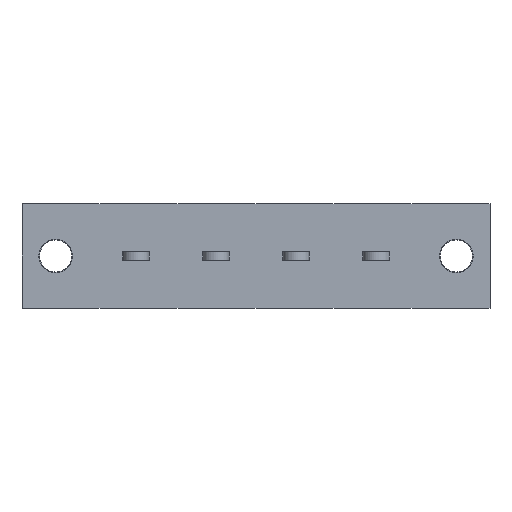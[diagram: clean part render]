
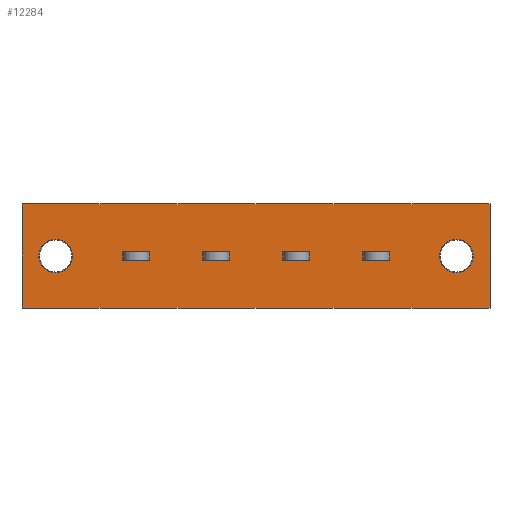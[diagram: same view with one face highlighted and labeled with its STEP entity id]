
A CAD part, front view. The second image highlights one B-rep face of the part: STEP entity #12284.
In plain terms, the highlighted planar face has unit normal (0, -1, 0).
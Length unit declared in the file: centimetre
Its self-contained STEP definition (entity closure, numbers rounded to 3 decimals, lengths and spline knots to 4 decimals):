
#948=VECTOR('',#13832,1.);
#1078=VECTOR('',#14130,1.);
#1082=VECTOR('',#14141,1.);
#1085=VECTOR('',#14157,1.);
#1086=VECTOR('',#14159,1.);
#1102=VECTOR('',#14184,1.);
#1103=VECTOR('',#14185,1.);
#1104=VECTOR('',#14186,1.);
#1105=VECTOR('',#14187,1.);
#1106=VECTOR('',#14188,1.);
#1107=VECTOR('',#14189,1.);
#1108=VECTOR('',#14190,1.);
#1109=VECTOR('',#14191,1.);
#1110=VECTOR('',#14192,1.);
#1111=VECTOR('',#14193,1.);
#1112=VECTOR('',#14194,1.);
#1113=VECTOR('',#14195,1.);
#1114=VECTOR('',#14196,1.);
#1115=VECTOR('',#14197,1.);
#1116=VECTOR('',#14198,1.);
#2374=LINE('',#17290,#948);
#2504=LINE('',#17698,#1078);
#2508=LINE('',#17710,#1082);
#2511=LINE('',#17722,#1085);
#2512=LINE('',#17725,#1086);
#2528=LINE('',#17764,#1102);
#2529=LINE('',#17767,#1103);
#2530=LINE('',#17769,#1104);
#2531=LINE('',#17771,#1105);
#2532=LINE('',#17772,#1106);
#2533=LINE('',#17775,#1107);
#2534=LINE('',#17777,#1108);
#2535=LINE('',#17779,#1109);
#2536=LINE('',#17780,#1110);
#2537=LINE('',#17783,#1111);
#2538=LINE('',#17785,#1112);
#2539=LINE('',#17787,#1113);
#2540=LINE('',#17788,#1114);
#2541=LINE('',#17790,#1115);
#2542=LINE('',#17792,#1116);
#3775=VERTEX_POINT('',#17288);
#3777=VERTEX_POINT('',#17291);
#3783=VERTEX_POINT('',#17305);
#3905=VERTEX_POINT('',#17699);
#3906=VERTEX_POINT('',#17700);
#3909=VERTEX_POINT('',#17711);
#3910=VERTEX_POINT('',#17723);
#3927=VERTEX_POINT('',#17763);
#3928=VERTEX_POINT('',#17765);
#3929=VERTEX_POINT('',#17766);
#3930=VERTEX_POINT('',#17768);
#3931=VERTEX_POINT('',#17770);
#3932=VERTEX_POINT('',#17773);
#3933=VERTEX_POINT('',#17774);
#3934=VERTEX_POINT('',#17776);
#3935=VERTEX_POINT('',#17778);
#3936=VERTEX_POINT('',#17781);
#3937=VERTEX_POINT('',#17782);
#3938=VERTEX_POINT('',#17784);
#3939=VERTEX_POINT('',#17786);
#3940=VERTEX_POINT('',#17789);
#3941=VERTEX_POINT('',#17791);
#4677=CIRCLE('',#20759,0.21);
#4718=CIRCLE('',#20886,0.21);
#5365=EDGE_CURVE('',#3777,#3775,#2374,.T.);
#5372=EDGE_CURVE('',#3783,#3783,#4677,.T.);
#5546=EDGE_CURVE('',#3905,#3906,#2504,.T.);
#5552=EDGE_CURVE('',#3909,#3905,#2508,.T.);
#5559=EDGE_CURVE('',#3910,#3909,#2511,.T.);
#5561=EDGE_CURVE('',#3906,#3910,#2512,.T.);
#5579=EDGE_CURVE('',#3927,#3927,#4718,.T.);
#5580=EDGE_CURVE('',#3928,#3929,#2528,.T.);
#5581=EDGE_CURVE('',#3929,#3930,#2529,.T.);
#5582=EDGE_CURVE('',#3930,#3931,#2530,.T.);
#5583=EDGE_CURVE('',#3931,#3928,#2531,.T.);
#5584=EDGE_CURVE('',#3932,#3933,#2532,.T.);
#5585=EDGE_CURVE('',#3933,#3934,#2533,.T.);
#5586=EDGE_CURVE('',#3934,#3935,#2534,.T.);
#5587=EDGE_CURVE('',#3935,#3932,#2535,.T.);
#5588=EDGE_CURVE('',#3936,#3937,#2536,.T.);
#5589=EDGE_CURVE('',#3937,#3938,#2537,.T.);
#5590=EDGE_CURVE('',#3938,#3939,#2538,.T.);
#5591=EDGE_CURVE('',#3939,#3936,#2539,.T.);
#5592=EDGE_CURVE('',#3940,#3777,#2540,.T.);
#5593=EDGE_CURVE('',#3941,#3775,#2541,.T.);
#5594=EDGE_CURVE('',#3941,#3940,#2542,.T.);
#8142=ORIENTED_EDGE('',*,*,#5372,.T.);
#8143=ORIENTED_EDGE('',*,*,#5579,.T.);
#8144=ORIENTED_EDGE('',*,*,#5552,.F.);
#8145=ORIENTED_EDGE('',*,*,#5559,.F.);
#8146=ORIENTED_EDGE('',*,*,#5561,.F.);
#8147=ORIENTED_EDGE('',*,*,#5546,.F.);
#8148=ORIENTED_EDGE('',*,*,#5580,.T.);
#8149=ORIENTED_EDGE('',*,*,#5581,.T.);
#8150=ORIENTED_EDGE('',*,*,#5582,.T.);
#8151=ORIENTED_EDGE('',*,*,#5583,.T.);
#8152=ORIENTED_EDGE('',*,*,#5584,.T.);
#8153=ORIENTED_EDGE('',*,*,#5585,.T.);
#8154=ORIENTED_EDGE('',*,*,#5586,.T.);
#8155=ORIENTED_EDGE('',*,*,#5587,.T.);
#8156=ORIENTED_EDGE('',*,*,#5588,.T.);
#8157=ORIENTED_EDGE('',*,*,#5589,.T.);
#8158=ORIENTED_EDGE('',*,*,#5590,.T.);
#8159=ORIENTED_EDGE('',*,*,#5591,.T.);
#8160=ORIENTED_EDGE('',*,*,#5592,.T.);
#8161=ORIENTED_EDGE('',*,*,#5365,.T.);
#8162=ORIENTED_EDGE('',*,*,#5593,.F.);
#8163=ORIENTED_EDGE('',*,*,#5594,.T.);
#10751=EDGE_LOOP('',(#8142));
#10752=EDGE_LOOP('',(#8143));
#10753=EDGE_LOOP('',(#8144,#8145,#8146,#8147));
#10754=EDGE_LOOP('',(#8148,#8149,#8150,#8151));
#10755=EDGE_LOOP('',(#8152,#8153,#8154,#8155));
#10756=EDGE_LOOP('',(#8156,#8157,#8158,#8159));
#10757=EDGE_LOOP('',(#8160,#8161,#8162,#8163));
#11535=FACE_BOUND('',#10751,.T.);
#11536=FACE_BOUND('',#10752,.T.);
#11537=FACE_BOUND('',#10753,.T.);
#11538=FACE_BOUND('',#10754,.T.);
#11539=FACE_BOUND('',#10755,.T.);
#11540=FACE_BOUND('',#10756,.T.);
#11541=FACE_BOUND('',#10757,.T.);
#12284=ADVANCED_FACE('',(#11535,#11536,#11537,#11538,#11539,#11540,#11541),
#12915,.T.);
#12915=PLANE('',#20885);
#13832=DIRECTION('',(0.,0.,1.));
#13841=DIRECTION('',(0.,1.,0.));
#13842=DIRECTION('',(0.21,0.,0.));
#14130=DIRECTION('',(0.,0.,1.));
#14141=DIRECTION('',(1.,0.,0.));
#14157=DIRECTION('',(0.,0.,-1.));
#14159=DIRECTION('',(-1.,0.,0.));
#14181=DIRECTION('',(0.,-1.,0.));
#14182=DIRECTION('',(0.,1.,0.));
#14183=DIRECTION('',(0.21,0.,0.));
#14184=DIRECTION('',(-1.,0.,0.));
#14185=DIRECTION('',(0.,0.,1.));
#14186=DIRECTION('',(1.,0.,0.));
#14187=DIRECTION('',(0.,0.,-1.));
#14188=DIRECTION('',(-1.,0.,0.));
#14189=DIRECTION('',(0.,0.,1.));
#14190=DIRECTION('',(1.,0.,0.));
#14191=DIRECTION('',(0.,0.,-1.));
#14192=DIRECTION('',(-1.,0.,0.));
#14193=DIRECTION('',(0.,0.,1.));
#14194=DIRECTION('',(1.,0.,0.));
#14195=DIRECTION('',(0.,0.,-1.));
#14196=DIRECTION('',(1.,0.,0.));
#14197=DIRECTION('',(1.,0.,0.));
#14198=DIRECTION('',(0.,0.,-1.));
#17288=CARTESIAN_POINT('',(4.,0.,0.65));
#17290=CARTESIAN_POINT('',(4.,0.,0.65));
#17291=CARTESIAN_POINT('',(4.,0.,-0.65));
#17304=CARTESIAN_POINT('',(3.58,0.,0.));
#17305=CARTESIAN_POINT('',(3.37,0.,0.));
#17698=CARTESIAN_POINT('',(-0.255,0.,0.));
#17699=CARTESIAN_POINT('',(-0.255,0.,-0.05));
#17700=CARTESIAN_POINT('',(-0.255,0.,0.05));
#17710=CARTESIAN_POINT('',(-0.63,0.,-0.05));
#17711=CARTESIAN_POINT('',(-0.585,0.,-0.05));
#17722=CARTESIAN_POINT('',(-0.585,0.,0.));
#17723=CARTESIAN_POINT('',(-0.585,0.,0.05));
#17725=CARTESIAN_POINT('',(-0.63,0.,0.05));
#17761=CARTESIAN_POINT('',(0.,0.,0.));
#17762=CARTESIAN_POINT('',(-1.42,0.,0.));
#17763=CARTESIAN_POINT('',(-1.63,0.,0.));
#17764=CARTESIAN_POINT('',(1.29,0.,-0.05));
#17765=CARTESIAN_POINT('',(2.745,0.,-0.05));
#17766=CARTESIAN_POINT('',(2.415,0.,-0.05));
#17767=CARTESIAN_POINT('',(2.415,0.,0.));
#17768=CARTESIAN_POINT('',(2.415,0.,0.05));
#17769=CARTESIAN_POINT('',(1.29,0.,0.05));
#17770=CARTESIAN_POINT('',(2.745,0.,0.05));
#17771=CARTESIAN_POINT('',(2.745,0.,0.));
#17772=CARTESIAN_POINT('',(0.79,0.,-0.05));
#17773=CARTESIAN_POINT('',(1.745,0.,-0.05));
#17774=CARTESIAN_POINT('',(1.415,0.,-0.05));
#17775=CARTESIAN_POINT('',(1.415,0.,0.));
#17776=CARTESIAN_POINT('',(1.415,0.,0.05));
#17777=CARTESIAN_POINT('',(0.79,0.,0.05));
#17778=CARTESIAN_POINT('',(1.745,0.,0.05));
#17779=CARTESIAN_POINT('',(1.745,0.,0.));
#17780=CARTESIAN_POINT('',(0.29,0.,-0.05));
#17781=CARTESIAN_POINT('',(0.745,0.,-0.05));
#17782=CARTESIAN_POINT('',(0.415,0.,-0.05));
#17783=CARTESIAN_POINT('',(0.415,0.,0.));
#17784=CARTESIAN_POINT('',(0.415,0.,0.05));
#17785=CARTESIAN_POINT('',(0.29,0.,0.05));
#17786=CARTESIAN_POINT('',(0.745,0.,0.05));
#17787=CARTESIAN_POINT('',(0.745,0.,0.));
#17788=CARTESIAN_POINT('',(-1.84,0.,-0.65));
#17789=CARTESIAN_POINT('',(-1.84,0.,-0.65));
#17790=CARTESIAN_POINT('',(0.,0.,0.65));
#17791=CARTESIAN_POINT('',(-1.84,0.,0.65));
#17792=CARTESIAN_POINT('',(-1.84,0.,0.65));
#20759=AXIS2_PLACEMENT_3D('',#17304,#13841,#13842);
#20885=AXIS2_PLACEMENT_3D('',#17761,#14181,$);
#20886=AXIS2_PLACEMENT_3D('',#17762,#14182,#14183);
